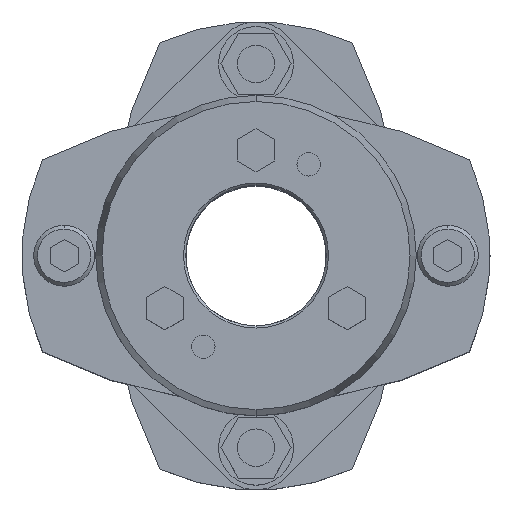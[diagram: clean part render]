
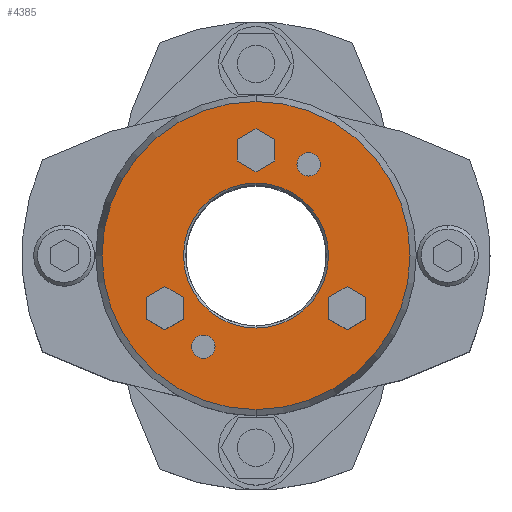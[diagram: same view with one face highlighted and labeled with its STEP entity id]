
A CAD part, top view. The second image highlights one B-rep face of the part: STEP entity #4385.
In plain terms, the highlighted planar face has unit normal (0, 0, 1).
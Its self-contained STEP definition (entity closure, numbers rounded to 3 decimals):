
#2291=CARTESIAN_POINT('',(0.,15.5,55.5));
#2292=VERTEX_POINT('',#2291);
#2308=CARTESIAN_POINT('',(0.,-15.5,55.5));
#2309=VERTEX_POINT('',#2308);
#2316=CARTESIAN_POINT('',(0.,0.,55.5));
#2317=DIRECTION('',(0.0,0.0,1.0));
#2318=DIRECTION('',(0.0,1.0,0.0));
#2319=AXIS2_PLACEMENT_3D('',#2316,#2317,#2318);
#2320=CIRCLE('',#2319,15.5);
#2321=EDGE_CURVE('',#2309,#2292,#2320,.T.);
#2479=CARTESIAN_POINT('',(0.,-32.91,55.5));
#2480=VERTEX_POINT('',#2479);
#2487=CARTESIAN_POINT('',(0.,32.91,55.5));
#2488=VERTEX_POINT('',#2487);
#2489=CARTESIAN_POINT('',(0.,0.,55.5));
#2490=DIRECTION('',(0.0,0.0,-1.0));
#2491=DIRECTION('',(0.0,-1.0,0.0));
#2492=AXIS2_PLACEMENT_3D('',#2489,#2490,#2491);
#2493=CIRCLE('',#2492,32.91);
#2494=EDGE_CURVE('',#2480,#2488,#2493,.T.);
#2589=CARTESIAN_POINT('',(-11.25,-16.986,55.5));
#2590=VERTEX_POINT('',#2589);
#2606=CARTESIAN_POINT('',(-11.25,-21.986,55.5));
#2607=VERTEX_POINT('',#2606);
#2614=CARTESIAN_POINT('',(-11.25,-19.486,55.5));
#2615=DIRECTION('',(0.0,0.0,-1.0));
#2616=DIRECTION('',(0.0,1.0,0.0));
#2617=AXIS2_PLACEMENT_3D('',#2614,#2615,#2616);
#2618=CIRCLE('',#2617,2.5);
#2619=EDGE_CURVE('',#2590,#2607,#2618,.T.);
#2631=CARTESIAN_POINT('',(11.25,21.986,55.5));
#2632=VERTEX_POINT('',#2631);
#2648=CARTESIAN_POINT('',(11.25,16.986,55.5));
#2649=VERTEX_POINT('',#2648);
#2656=CARTESIAN_POINT('',(11.25,19.486,55.5));
#2657=DIRECTION('',(0.0,0.0,-1.0));
#2658=DIRECTION('',(0.0,1.0,0.0));
#2659=AXIS2_PLACEMENT_3D('',#2656,#2657,#2658);
#2660=CIRCLE('',#2659,2.5);
#2661=EDGE_CURVE('',#2632,#2649,#2660,.T.);
#3412=CARTESIAN_POINT('',(11.25,19.486,55.5));
#3413=DIRECTION('',(0.0,0.0,-1.0));
#3414=DIRECTION('',(0.0,1.0,0.0));
#3415=AXIS2_PLACEMENT_3D('',#3412,#3413,#3414);
#3416=CIRCLE('',#3415,2.5);
#3417=EDGE_CURVE('',#2649,#2632,#3416,.T.);
#3446=CARTESIAN_POINT('',(-11.25,-19.486,55.5));
#3447=DIRECTION('',(0.0,0.0,-1.0));
#3448=DIRECTION('',(0.0,1.0,0.0));
#3449=AXIS2_PLACEMENT_3D('',#3446,#3447,#3448);
#3450=CIRCLE('',#3449,2.5);
#3451=EDGE_CURVE('',#2607,#2590,#3450,.T.);
#3489=CARTESIAN_POINT('',(0.,27.119,55.5));
#3490=VERTEX_POINT('',#3489);
#3497=CARTESIAN_POINT('',(-4.,24.809,55.5));
#3498=VERTEX_POINT('',#3497);
#3499=CARTESIAN_POINT('',(-4.,24.809,55.5));
#3500=DIRECTION('',(0.866,0.5,0.0));
#3501=VECTOR('',#3500,4.619);
#3502=LINE('',#3499,#3501);
#3503=EDGE_CURVE('',#3498,#3490,#3502,.T.);
#3527=CARTESIAN_POINT('',(4.,24.809,55.5));
#3528=VERTEX_POINT('',#3527);
#3535=CARTESIAN_POINT('',(0.,27.119,55.5));
#3536=DIRECTION('',(0.866,-0.5,0.0));
#3537=VECTOR('',#3536,4.619);
#3538=LINE('',#3535,#3537);
#3539=EDGE_CURVE('',#3490,#3528,#3538,.T.);
#3558=CARTESIAN_POINT('',(4.,20.191,55.5));
#3559=VERTEX_POINT('',#3558);
#3566=CARTESIAN_POINT('',(4.,24.809,55.5));
#3567=DIRECTION('',(0.0,-1.0,0.0));
#3568=VECTOR('',#3567,4.619);
#3569=LINE('',#3566,#3568);
#3570=EDGE_CURVE('',#3528,#3559,#3569,.T.);
#3589=CARTESIAN_POINT('',(0.,17.881,55.5));
#3590=VERTEX_POINT('',#3589);
#3597=CARTESIAN_POINT('',(4.,20.191,55.5));
#3598=DIRECTION('',(-0.866,-0.5,0.0));
#3599=VECTOR('',#3598,4.619);
#3600=LINE('',#3597,#3599);
#3601=EDGE_CURVE('',#3559,#3590,#3600,.T.);
#3620=CARTESIAN_POINT('',(-4.,20.191,55.5));
#3621=VERTEX_POINT('',#3620);
#3628=CARTESIAN_POINT('',(0.,17.881,55.5));
#3629=DIRECTION('',(-0.866,0.5,0.0));
#3630=VECTOR('',#3629,4.619);
#3631=LINE('',#3628,#3630);
#3632=EDGE_CURVE('',#3590,#3621,#3631,.T.);
#3650=CARTESIAN_POINT('',(-4.,20.191,55.5));
#3651=DIRECTION('',(0.0,1.0,0.0));
#3652=VECTOR('',#3651,4.619);
#3653=LINE('',#3650,#3652);
#3654=EDGE_CURVE('',#3621,#3498,#3653,.T.);
#3689=CARTESIAN_POINT('',(19.486,-6.631,55.5));
#3690=VERTEX_POINT('',#3689);
#3697=CARTESIAN_POINT('',(15.486,-8.941,55.5));
#3698=VERTEX_POINT('',#3697);
#3699=CARTESIAN_POINT('',(15.486,-8.941,55.5));
#3700=DIRECTION('',(0.866,0.5,0.0));
#3701=VECTOR('',#3700,4.619);
#3702=LINE('',#3699,#3701);
#3703=EDGE_CURVE('',#3698,#3690,#3702,.T.);
#3727=CARTESIAN_POINT('',(23.486,-8.941,55.5));
#3728=VERTEX_POINT('',#3727);
#3735=CARTESIAN_POINT('',(19.486,-6.631,55.5));
#3736=DIRECTION('',(0.866,-0.5,0.0));
#3737=VECTOR('',#3736,4.619);
#3738=LINE('',#3735,#3737);
#3739=EDGE_CURVE('',#3690,#3728,#3738,.T.);
#3758=CARTESIAN_POINT('',(23.486,-13.559,55.5));
#3759=VERTEX_POINT('',#3758);
#3766=CARTESIAN_POINT('',(23.486,-8.941,55.5));
#3767=DIRECTION('',(0.0,-1.0,0.0));
#3768=VECTOR('',#3767,4.619);
#3769=LINE('',#3766,#3768);
#3770=EDGE_CURVE('',#3728,#3759,#3769,.T.);
#3789=CARTESIAN_POINT('',(19.486,-15.869,55.5));
#3790=VERTEX_POINT('',#3789);
#3797=CARTESIAN_POINT('',(23.486,-13.559,55.5));
#3798=DIRECTION('',(-0.866,-0.5,0.0));
#3799=VECTOR('',#3798,4.619);
#3800=LINE('',#3797,#3799);
#3801=EDGE_CURVE('',#3759,#3790,#3800,.T.);
#3820=CARTESIAN_POINT('',(15.486,-13.559,55.5));
#3821=VERTEX_POINT('',#3820);
#3828=CARTESIAN_POINT('',(19.486,-15.869,55.5));
#3829=DIRECTION('',(-0.866,0.5,0.0));
#3830=VECTOR('',#3829,4.619);
#3831=LINE('',#3828,#3830);
#3832=EDGE_CURVE('',#3790,#3821,#3831,.T.);
#3850=CARTESIAN_POINT('',(15.486,-13.559,55.5));
#3851=DIRECTION('',(0.0,1.0,0.0));
#3852=VECTOR('',#3851,4.619);
#3853=LINE('',#3850,#3852);
#3854=EDGE_CURVE('',#3821,#3698,#3853,.T.);
#3889=CARTESIAN_POINT('',(-19.486,-6.631,55.5));
#3890=VERTEX_POINT('',#3889);
#3897=CARTESIAN_POINT('',(-23.486,-8.941,55.5));
#3898=VERTEX_POINT('',#3897);
#3899=CARTESIAN_POINT('',(-23.486,-8.941,55.5));
#3900=DIRECTION('',(0.866,0.5,0.0));
#3901=VECTOR('',#3900,4.619);
#3902=LINE('',#3899,#3901);
#3903=EDGE_CURVE('',#3898,#3890,#3902,.T.);
#3927=CARTESIAN_POINT('',(-15.486,-8.941,55.5));
#3928=VERTEX_POINT('',#3927);
#3935=CARTESIAN_POINT('',(-19.486,-6.631,55.5));
#3936=DIRECTION('',(0.866,-0.5,0.0));
#3937=VECTOR('',#3936,4.619);
#3938=LINE('',#3935,#3937);
#3939=EDGE_CURVE('',#3890,#3928,#3938,.T.);
#3958=CARTESIAN_POINT('',(-15.486,-13.559,55.5));
#3959=VERTEX_POINT('',#3958);
#3966=CARTESIAN_POINT('',(-15.486,-8.941,55.5));
#3967=DIRECTION('',(0.0,-1.0,0.0));
#3968=VECTOR('',#3967,4.619);
#3969=LINE('',#3966,#3968);
#3970=EDGE_CURVE('',#3928,#3959,#3969,.T.);
#3989=CARTESIAN_POINT('',(-19.486,-15.869,55.5));
#3990=VERTEX_POINT('',#3989);
#3997=CARTESIAN_POINT('',(-15.486,-13.559,55.5));
#3998=DIRECTION('',(-0.866,-0.5,0.0));
#3999=VECTOR('',#3998,4.619);
#4000=LINE('',#3997,#3999);
#4001=EDGE_CURVE('',#3959,#3990,#4000,.T.);
#4020=CARTESIAN_POINT('',(-23.486,-13.559,55.5));
#4021=VERTEX_POINT('',#4020);
#4028=CARTESIAN_POINT('',(-19.486,-15.869,55.5));
#4029=DIRECTION('',(-0.866,0.5,0.0));
#4030=VECTOR('',#4029,4.619);
#4031=LINE('',#4028,#4030);
#4032=EDGE_CURVE('',#3990,#4021,#4031,.T.);
#4050=CARTESIAN_POINT('',(-23.486,-13.559,55.5));
#4051=DIRECTION('',(0.0,1.0,0.0));
#4052=VECTOR('',#4051,4.619);
#4053=LINE('',#4050,#4052);
#4054=EDGE_CURVE('',#4021,#3898,#4053,.T.);
#4324=CARTESIAN_POINT('',(0.,0.,55.5));
#4325=DIRECTION('',(0.0,0.0,-1.0));
#4326=DIRECTION('',(0.0,-1.0,0.0));
#4327=AXIS2_PLACEMENT_3D('',#4324,#4325,#4326);
#4328=CIRCLE('',#4327,32.91);
#4329=EDGE_CURVE('',#2488,#2480,#4328,.T.);
#4334=CARTESIAN_POINT('',(0.,3.114,55.5));
#4335=DIRECTION('',(0.0,0.0,1.0));
#4336=DIRECTION('',(0.0,1.0,0.0));
#4337=AXIS2_PLACEMENT_3D('',#4334,#4335,#4336);
#4338=PLANE('',#4337);
#4339=ORIENTED_EDGE('',*,*,#4329,.F.);
#4340=ORIENTED_EDGE('',*,*,#2494,.F.);
#4341=EDGE_LOOP('',(#4339,#4340));
#4342=FACE_OUTER_BOUND('',#4341,.T.);
#4343=ORIENTED_EDGE('',*,*,#2661,.T.);
#4344=ORIENTED_EDGE('',*,*,#3417,.T.);
#4345=EDGE_LOOP('',(#4343,#4344));
#4346=FACE_BOUND('',#4345,.T.);
#4347=ORIENTED_EDGE('',*,*,#2619,.T.);
#4348=ORIENTED_EDGE('',*,*,#3451,.T.);
#4349=EDGE_LOOP('',(#4347,#4348));
#4350=FACE_BOUND('',#4349,.T.);
#4351=ORIENTED_EDGE('',*,*,#3503,.T.);
#4352=ORIENTED_EDGE('',*,*,#3539,.T.);
#4353=ORIENTED_EDGE('',*,*,#3570,.T.);
#4354=ORIENTED_EDGE('',*,*,#3601,.T.);
#4355=ORIENTED_EDGE('',*,*,#3632,.T.);
#4356=ORIENTED_EDGE('',*,*,#3654,.T.);
#4357=EDGE_LOOP('',(#4351,#4352,#4353,#4354,#4355,#4356));
#4358=FACE_BOUND('',#4357,.T.);
#4359=ORIENTED_EDGE('',*,*,#3703,.T.);
#4360=ORIENTED_EDGE('',*,*,#3739,.T.);
#4361=ORIENTED_EDGE('',*,*,#3770,.T.);
#4362=ORIENTED_EDGE('',*,*,#3801,.T.);
#4363=ORIENTED_EDGE('',*,*,#3832,.T.);
#4364=ORIENTED_EDGE('',*,*,#3854,.T.);
#4365=EDGE_LOOP('',(#4359,#4360,#4361,#4362,#4363,#4364));
#4366=FACE_BOUND('',#4365,.T.);
#4367=ORIENTED_EDGE('',*,*,#3903,.T.);
#4368=ORIENTED_EDGE('',*,*,#3939,.T.);
#4369=ORIENTED_EDGE('',*,*,#3970,.T.);
#4370=ORIENTED_EDGE('',*,*,#4001,.T.);
#4371=ORIENTED_EDGE('',*,*,#4032,.T.);
#4372=ORIENTED_EDGE('',*,*,#4054,.T.);
#4373=EDGE_LOOP('',(#4367,#4368,#4369,#4370,#4371,#4372));
#4374=FACE_BOUND('',#4373,.T.);
#4375=ORIENTED_EDGE('',*,*,#2321,.F.);
#4376=CARTESIAN_POINT('',(0.,0.,55.5));
#4377=DIRECTION('',(0.0,0.0,1.0));
#4378=DIRECTION('',(0.0,1.0,0.0));
#4379=AXIS2_PLACEMENT_3D('',#4376,#4377,#4378);
#4380=CIRCLE('',#4379,15.5);
#4381=EDGE_CURVE('',#2292,#2309,#4380,.T.);
#4382=ORIENTED_EDGE('',*,*,#4381,.F.);
#4383=EDGE_LOOP('',(#4375,#4382));
#4384=FACE_BOUND('',#4383,.T.);
#4385=ADVANCED_FACE('',(#4342,#4346,#4350,#4358,#4366,#4374,#4384),#4338,.T.);
